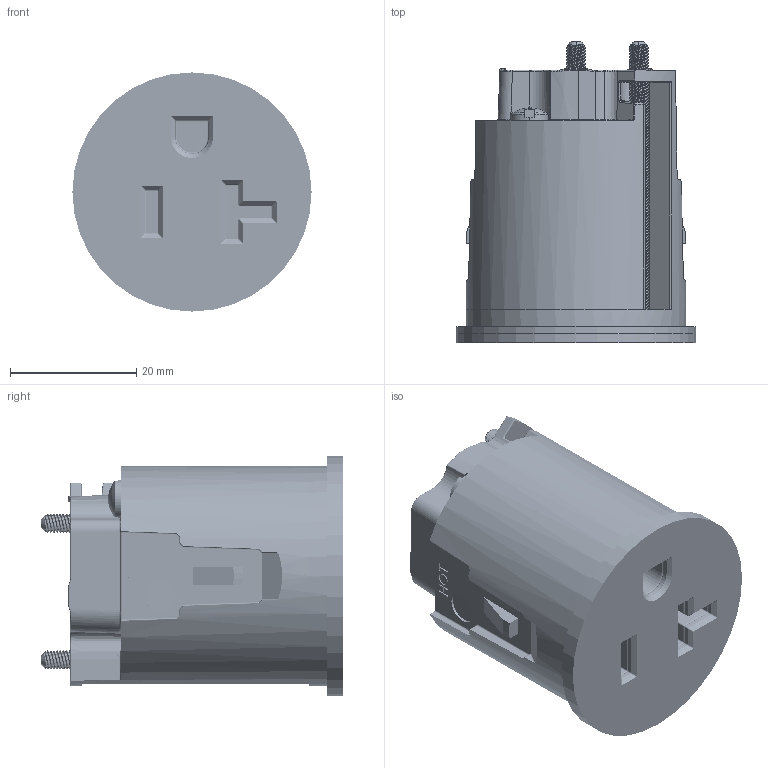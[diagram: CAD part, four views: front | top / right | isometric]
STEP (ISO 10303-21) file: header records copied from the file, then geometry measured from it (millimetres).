
FILE_DESCRIPTION((''),'2;1');
FILE_NAME('A1440657_ASM','2025-08-22T11:34:24',('FDR'),(''),'CREO PARAMETRIC BY PTC INC, 2023494','CREO PARAMETRIC BY PTC INC, 2023494','');
FILE_SCHEMA(('AP242_MANAGED_MODEL_BASED_3D_ENGINEERING_MIM_LF { 1 0 10303 442 1 1 4 }'));
Products named in the file (5): A1493663; A1400703; A1440665; A1413233; A1440657_ASM
Assembly tree (6 placements, depth 2):
  A1440657_ASM
    A1493663
    A1400703  x2
    A1440665
    A1413233  x2
Bounding box: 37.9 x 47.8 x 37.9 mm (x, y, z)
Volume: 32110.8 mm3; surface area: 13844.4 mm2
Topology: 7 solids, 13 shells, 2761 faces, 9381 edges, 6877 vertices
Faces by surface type: plane 812, cylinder 807, bspline 356, extrusion 331, cone 250, torus 134, sphere 71
Entity records: 152996 total; most frequent: CARTESIAN_POINT 51332, ORIENTED_EDGE 11280, PRESENTATION_STYLE_ASSIGNMENT 10253, DIRECTION 10228, STYLED_ITEM 8166, CURVE_STYLE 8147, EDGE_CURVE 5651, VECTOR 4294
